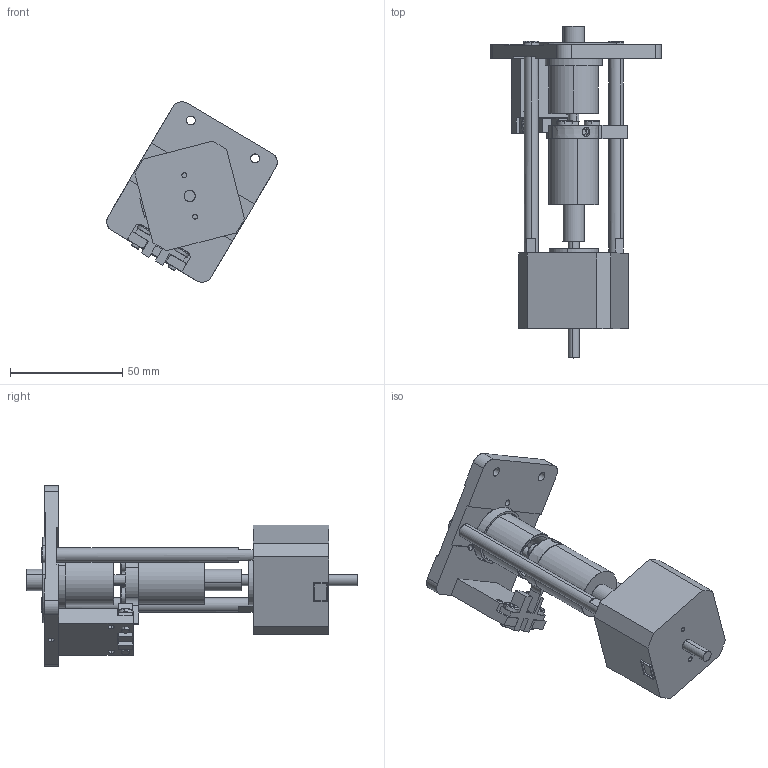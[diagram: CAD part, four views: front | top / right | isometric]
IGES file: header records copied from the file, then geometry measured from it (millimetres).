
Start section: SolidWorks IGES file using analytic representation for surfaces
Global section: file name: R:\ORIG\Model\Assembly Web\MOD91008\MOD91008 RA.IGS; native system: SolidWorks 2014; preprocessor: SolidWorks 2014; author: Slater.P; date: 151117.132349; units: inch
Bounding box: 75.92 x 147.83 x 80.41 mm (x, y, z)
Surface area: 45701.8 mm2 (no closed solid volume)
Topology: 0 solids, 0 shells, 579 faces, 8064 edges, 8062 vertices
Faces by surface type: bspline 344, revolution 235
